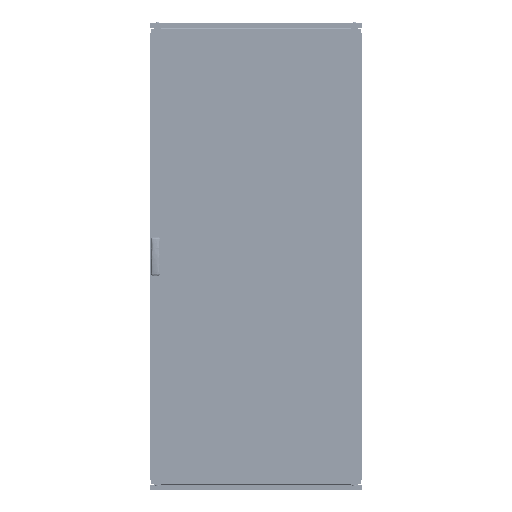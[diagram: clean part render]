
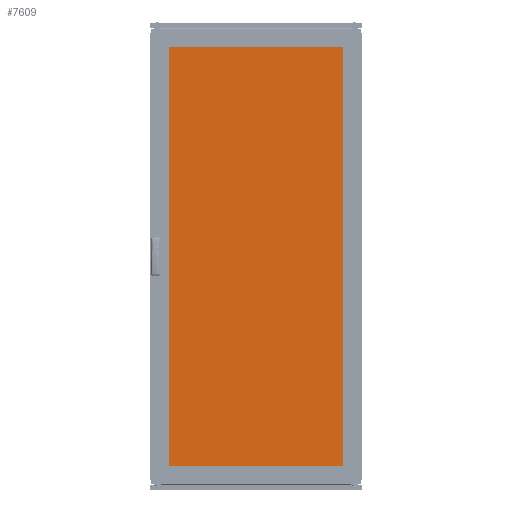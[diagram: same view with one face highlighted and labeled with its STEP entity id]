
A CAD part, top view. The second image highlights one B-rep face of the part: STEP entity #7609.
In plain terms, the highlighted planar face has unit normal (0, 0, 1).
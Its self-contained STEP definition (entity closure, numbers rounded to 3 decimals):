
#129 = DIRECTION ( 'NONE',  ( -1., 0., 0. ) ) ;
#2260 = EDGE_LOOP ( 'NONE', ( #205753, #17269, #92386, #79071 ) ) ;
#7609 = ADVANCED_FACE ( 'NONE', ( #253762 ), #137911, .F. ) ;
#16934 = VECTOR ( 'NONE', #72952, 1000. ) ;
#17269 = ORIENTED_EDGE ( 'NONE', *, *, #179557, .T. ) ;
#45388 = VECTOR ( 'NONE', #210524, 1000. ) ;
#45639 = VERTEX_POINT ( 'NONE', #94842 ) ;
#56929 = AXIS2_PLACEMENT_3D ( 'NONE', #100492, #60624, #129 ) ;
#60624 = DIRECTION ( 'NONE',  ( 0., 0., -1. ) ) ;
#65682 = CARTESIAN_POINT ( 'NONE',  ( 430., -1010., 5. ) ) ;
#72952 = DIRECTION ( 'NONE',  ( -1., 0., 0. ) ) ;
#74802 = VECTOR ( 'NONE', #134110, 1000. ) ;
#79071 = ORIENTED_EDGE ( 'NONE', *, *, #116485, .T. ) ;
#92108 = LINE ( 'NONE', #107614, #45388 ) ;
#92386 = ORIENTED_EDGE ( 'NONE', *, *, #180101, .T. ) ;
#94842 = CARTESIAN_POINT ( 'NONE',  ( -430., -1010., 5. ) ) ;
#100492 = CARTESIAN_POINT ( 'NONE',  ( 0., 0., 5. ) ) ;
#107614 = CARTESIAN_POINT ( 'NONE',  ( 430., -1010., 5. ) ) ;
#112655 = DIRECTION ( 'NONE',  ( 1., 0., 0. ) ) ;
#116485 = EDGE_CURVE ( 'NONE', #45639, #240442, #210513, .T. ) ;
#126459 = EDGE_CURVE ( 'NONE', #240442, #152743, #92108, .T. ) ;
#129978 = CARTESIAN_POINT ( 'NONE',  ( -430., 1010., 5. ) ) ;
#134110 = DIRECTION ( 'NONE',  ( 0., -1., 0. ) ) ;
#137911 = PLANE ( 'NONE',  #56929 ) ;
#152743 = VERTEX_POINT ( 'NONE', #197226 ) ;
#169509 = CARTESIAN_POINT ( 'NONE',  ( -430., 1010., 5. ) ) ;
#179557 = EDGE_CURVE ( 'NONE', #152743, #186113, #197414, .T. ) ;
#180101 = EDGE_CURVE ( 'NONE', #186113, #45639, #193326, .T. ) ;
#186113 = VERTEX_POINT ( 'NONE', #129978 ) ;
#193326 = LINE ( 'NONE', #194582, #74802 ) ;
#194582 = CARTESIAN_POINT ( 'NONE',  ( -430., -1010., 5. ) ) ;
#197226 = CARTESIAN_POINT ( 'NONE',  ( 430., 1010., 5. ) ) ;
#197414 = LINE ( 'NONE', #169509, #16934 ) ;
#205753 = ORIENTED_EDGE ( 'NONE', *, *, #126459, .T. ) ;
#207910 = VECTOR ( 'NONE', #112655, 1000. ) ;
#210513 = LINE ( 'NONE', #231090, #207910 ) ;
#210524 = DIRECTION ( 'NONE',  ( 0., 1., 0. ) ) ;
#231090 = CARTESIAN_POINT ( 'NONE',  ( -430., -1010., 5. ) ) ;
#240442 = VERTEX_POINT ( 'NONE', #65682 ) ;
#253762 = FACE_OUTER_BOUND ( 'NONE', #2260, .T. ) ;
